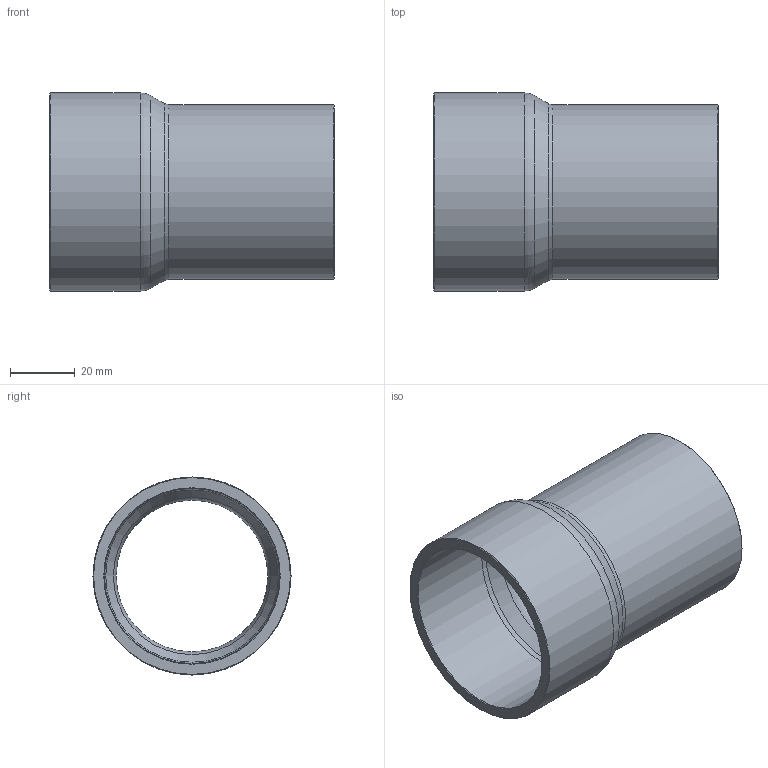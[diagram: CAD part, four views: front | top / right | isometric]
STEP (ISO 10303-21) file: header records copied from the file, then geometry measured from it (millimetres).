
FILE_DESCRIPTION((''),'2;1');
FILE_NAME('G:\SANHA-Ternat\Technik\Management\Bouwmaten + markeringen\z-maattekeningen 3D\29000s\29000s_gem\29245218_gem.stp','2020-03-27T10:04:47',('vdvijverd'),(''),'Autodesk Inventor 2009','Autodesk Inventor 2009','');
FILE_SCHEMA(('AUTOMOTIVE_DESIGN { 1 0 10303 214 1 1 1 1 }'));
Length unit declared in the file: millimetre
Products named in the file (1): 29245218_gem
Bounding box: 88 x 61.26 x 61.26 mm (x, y, z)
Volume: 52626 mm3; surface area: 30797.8 mm2
Topology: 1 solids, 1 shells, 15 faces, 28 edges, 15 vertices
Faces by surface type: cone 5, cylinder 4, plane 2, torus 2, bspline 2
Full cylindrical faces by diameter (mm): 46.87 x1, 53.97 x1, 54.155 x1, 61.255 x1
Entity records: 414 total; most frequent: CARTESIAN_POINT 134, DIRECTION 58, ORIENTED_EDGE 30, EDGE_LOOP 30, AXIS2_PLACEMENT_3D 29, VERTEX_POINT 15, CIRCLE 15, EDGE_CURVE 15
